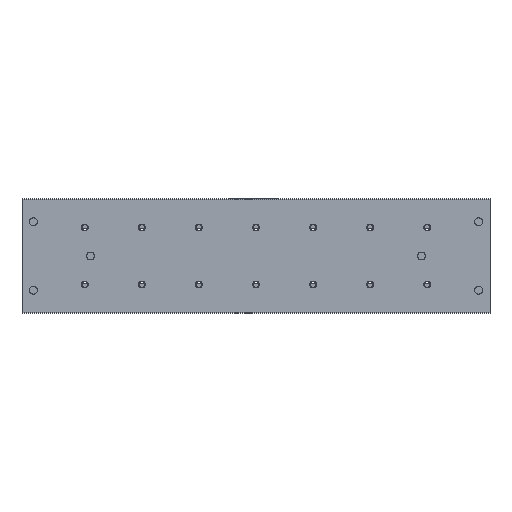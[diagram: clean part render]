
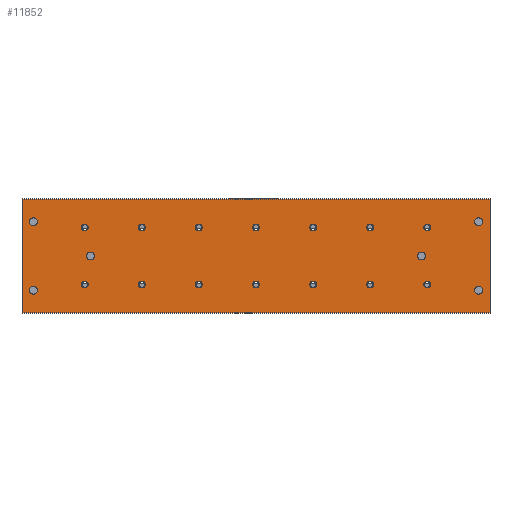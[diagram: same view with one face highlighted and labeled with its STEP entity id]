
A CAD part, front view. The second image highlights one B-rep face of the part: STEP entity #11852.
In plain terms, the highlighted planar face has unit normal (0, -1, 0).
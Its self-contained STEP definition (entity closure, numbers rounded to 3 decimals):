
#418=CIRCLE('',#12570,3.);
#419=CIRCLE('',#12571,3.);
#420=CIRCLE('',#12572,3.);
#421=CIRCLE('',#12573,3.);
#422=CIRCLE('',#12574,3.);
#423=CIRCLE('',#12575,3.);
#424=CIRCLE('',#12576,3.);
#425=CIRCLE('',#12577,3.);
#426=CIRCLE('',#12578,3.);
#427=CIRCLE('',#12579,3.);
#428=CIRCLE('',#12580,3.);
#429=CIRCLE('',#12581,3.);
#430=CIRCLE('',#12582,3.);
#431=CIRCLE('',#12583,3.);
#432=CIRCLE('',#12584,3.5);
#433=CIRCLE('',#12585,3.5);
#434=CIRCLE('',#12586,3.5);
#435=CIRCLE('',#12587,3.5);
#436=CIRCLE('',#12588,3.5);
#437=CIRCLE('',#12589,3.5);
#1256=ORIENTED_EDGE('',*,*,#4829,.F.);
#1257=ORIENTED_EDGE('',*,*,#4830,.F.);
#1258=ORIENTED_EDGE('',*,*,#4831,.F.);
#1259=ORIENTED_EDGE('',*,*,#4832,.F.);
#1260=ORIENTED_EDGE('',*,*,#4833,.F.);
#1261=ORIENTED_EDGE('',*,*,#4834,.F.);
#1262=ORIENTED_EDGE('',*,*,#4835,.F.);
#1263=ORIENTED_EDGE('',*,*,#4836,.F.);
#1264=ORIENTED_EDGE('',*,*,#4837,.F.);
#1265=ORIENTED_EDGE('',*,*,#4838,.F.);
#1266=ORIENTED_EDGE('',*,*,#4839,.F.);
#1267=ORIENTED_EDGE('',*,*,#4840,.F.);
#1268=ORIENTED_EDGE('',*,*,#4841,.F.);
#1269=ORIENTED_EDGE('',*,*,#4842,.F.);
#1270=ORIENTED_EDGE('',*,*,#4843,.F.);
#1271=ORIENTED_EDGE('',*,*,#4844,.F.);
#1272=ORIENTED_EDGE('',*,*,#4845,.T.);
#1273=ORIENTED_EDGE('',*,*,#4846,.F.);
#1274=ORIENTED_EDGE('',*,*,#4847,.F.);
#1275=ORIENTED_EDGE('',*,*,#4848,.F.);
#1276=ORIENTED_EDGE('',*,*,#4783,.T.);
#1277=ORIENTED_EDGE('',*,*,#4849,.F.);
#1278=ORIENTED_EDGE('',*,*,#4850,.F.);
#1279=ORIENTED_EDGE('',*,*,#4827,.T.);
#4783=EDGE_CURVE('',#6576,#6575,#7779,.T.);
#4827=EDGE_CURVE('',#6610,#6576,#7823,.T.);
#4829=EDGE_CURVE('',#6611,#6611,#418,.T.);
#4830=EDGE_CURVE('',#6612,#6612,#419,.T.);
#4831=EDGE_CURVE('',#6613,#6613,#420,.T.);
#4832=EDGE_CURVE('',#6614,#6614,#421,.T.);
#4833=EDGE_CURVE('',#6615,#6615,#422,.T.);
#4834=EDGE_CURVE('',#6616,#6616,#423,.T.);
#4835=EDGE_CURVE('',#6617,#6617,#424,.T.);
#4836=EDGE_CURVE('',#6618,#6618,#425,.T.);
#4837=EDGE_CURVE('',#6619,#6619,#426,.T.);
#4838=EDGE_CURVE('',#6620,#6620,#427,.T.);
#4839=EDGE_CURVE('',#6621,#6621,#428,.T.);
#4840=EDGE_CURVE('',#6622,#6622,#429,.T.);
#4841=EDGE_CURVE('',#6623,#6623,#430,.T.);
#4842=EDGE_CURVE('',#6624,#6624,#431,.T.);
#4843=EDGE_CURVE('',#6625,#6625,#432,.T.);
#4844=EDGE_CURVE('',#6626,#6626,#433,.T.);
#4845=EDGE_CURVE('',#6627,#6627,#434,.T.);
#4846=EDGE_CURVE('',#6628,#6628,#435,.T.);
#4847=EDGE_CURVE('',#6629,#6629,#436,.T.);
#4848=EDGE_CURVE('',#6630,#6630,#437,.T.);
#4849=EDGE_CURVE('',#6631,#6575,#7825,.T.);
#4850=EDGE_CURVE('',#6610,#6631,#7826,.T.);
#6575=VERTEX_POINT('',#17998);
#6576=VERTEX_POINT('',#18000);
#6610=VERTEX_POINT('',#18085);
#6611=VERTEX_POINT('',#18089);
#6612=VERTEX_POINT('',#18091);
#6613=VERTEX_POINT('',#18093);
#6614=VERTEX_POINT('',#18095);
#6615=VERTEX_POINT('',#18097);
#6616=VERTEX_POINT('',#18099);
#6617=VERTEX_POINT('',#18101);
#6618=VERTEX_POINT('',#18103);
#6619=VERTEX_POINT('',#18105);
#6620=VERTEX_POINT('',#18107);
#6621=VERTEX_POINT('',#18109);
#6622=VERTEX_POINT('',#18111);
#6623=VERTEX_POINT('',#18113);
#6624=VERTEX_POINT('',#18115);
#6625=VERTEX_POINT('',#18117);
#6626=VERTEX_POINT('',#18119);
#6627=VERTEX_POINT('',#18121);
#6628=VERTEX_POINT('',#18123);
#6629=VERTEX_POINT('',#18125);
#6630=VERTEX_POINT('',#18127);
#6631=VERTEX_POINT('',#18129);
#7779=LINE('',#17999,#8819);
#7823=LINE('',#18084,#8863);
#7825=LINE('',#18128,#8865);
#7826=LINE('',#18130,#8866);
#8819=VECTOR('',#14042,1000.);
#8863=VECTOR('',#14100,1000.);
#8865=VECTOR('',#14144,1000.);
#8866=VECTOR('',#14145,1000.);
#9841=EDGE_LOOP('',(#1256));
#9842=EDGE_LOOP('',(#1257));
#9843=EDGE_LOOP('',(#1258));
#9844=EDGE_LOOP('',(#1259));
#9845=EDGE_LOOP('',(#1260));
#9846=EDGE_LOOP('',(#1261));
#9847=EDGE_LOOP('',(#1262));
#9848=EDGE_LOOP('',(#1263));
#9849=EDGE_LOOP('',(#1264));
#9850=EDGE_LOOP('',(#1265));
#9851=EDGE_LOOP('',(#1266));
#9852=EDGE_LOOP('',(#1267));
#9853=EDGE_LOOP('',(#1268));
#9854=EDGE_LOOP('',(#1269));
#9855=EDGE_LOOP('',(#1270));
#9856=EDGE_LOOP('',(#1271));
#9857=EDGE_LOOP('',(#1272));
#9858=EDGE_LOOP('',(#1273));
#9859=EDGE_LOOP('',(#1274));
#9860=EDGE_LOOP('',(#1275));
#9861=EDGE_LOOP('',(#1276,#1277,#1278,#1279));
#10695=FACE_BOUND('',#9841,.T.);
#10696=FACE_BOUND('',#9842,.T.);
#10697=FACE_BOUND('',#9843,.T.);
#10698=FACE_BOUND('',#9844,.T.);
#10699=FACE_BOUND('',#9845,.T.);
#10700=FACE_BOUND('',#9846,.T.);
#10701=FACE_BOUND('',#9847,.T.);
#10702=FACE_BOUND('',#9848,.T.);
#10703=FACE_BOUND('',#9849,.T.);
#10704=FACE_BOUND('',#9850,.T.);
#10705=FACE_BOUND('',#9851,.T.);
#10706=FACE_BOUND('',#9852,.T.);
#10707=FACE_BOUND('',#9853,.T.);
#10708=FACE_BOUND('',#9854,.T.);
#10709=FACE_BOUND('',#9855,.T.);
#10710=FACE_BOUND('',#9856,.T.);
#10711=FACE_BOUND('',#9857,.T.);
#10712=FACE_BOUND('',#9858,.T.);
#10713=FACE_BOUND('',#9859,.T.);
#10714=FACE_BOUND('',#9860,.T.);
#10715=FACE_BOUND('',#9861,.T.);
#11549=PLANE('',#12569);
#11852=ADVANCED_FACE('',(#10695,#10696,#10697,#10698,#10699,#10700,#10701,
#10702,#10703,#10704,#10705,#10706,#10707,#10708,#10709,#10710,#10711,#10712,
#10713,#10714,#10715),#11549,.F.);
#12569=AXIS2_PLACEMENT_3D('',#18087,#14102,#14103);
#12570=AXIS2_PLACEMENT_3D('',#18088,#14104,#14105);
#12571=AXIS2_PLACEMENT_3D('',#18090,#14106,#14107);
#12572=AXIS2_PLACEMENT_3D('',#18092,#14108,#14109);
#12573=AXIS2_PLACEMENT_3D('',#18094,#14110,#14111);
#12574=AXIS2_PLACEMENT_3D('',#18096,#14112,#14113);
#12575=AXIS2_PLACEMENT_3D('',#18098,#14114,#14115);
#12576=AXIS2_PLACEMENT_3D('',#18100,#14116,#14117);
#12577=AXIS2_PLACEMENT_3D('',#18102,#14118,#14119);
#12578=AXIS2_PLACEMENT_3D('',#18104,#14120,#14121);
#12579=AXIS2_PLACEMENT_3D('',#18106,#14122,#14123);
#12580=AXIS2_PLACEMENT_3D('',#18108,#14124,#14125);
#12581=AXIS2_PLACEMENT_3D('',#18110,#14126,#14127);
#12582=AXIS2_PLACEMENT_3D('',#18112,#14128,#14129);
#12583=AXIS2_PLACEMENT_3D('',#18114,#14130,#14131);
#12584=AXIS2_PLACEMENT_3D('',#18116,#14132,#14133);
#12585=AXIS2_PLACEMENT_3D('',#18118,#14134,#14135);
#12586=AXIS2_PLACEMENT_3D('',#18120,#14136,#14137);
#12587=AXIS2_PLACEMENT_3D('',#18122,#14138,#14139);
#12588=AXIS2_PLACEMENT_3D('',#18124,#14140,#14141);
#12589=AXIS2_PLACEMENT_3D('',#18126,#14142,#14143);
#14042=DIRECTION('',(0.,0.,-1.));
#14100=DIRECTION('',(-1.,0.,0.));
#14102=DIRECTION('',(0.,1.,0.));
#14103=DIRECTION('',(0.,0.,1.));
#14104=DIRECTION('',(0.,-1.,0.));
#14105=DIRECTION('',(0.,0.,-1.));
#14106=DIRECTION('',(0.,-1.,0.));
#14107=DIRECTION('',(0.,0.,-1.));
#14108=DIRECTION('',(0.,-1.,0.));
#14109=DIRECTION('',(0.,0.,-1.));
#14110=DIRECTION('',(0.,-1.,0.));
#14111=DIRECTION('',(0.,0.,-1.));
#14112=DIRECTION('',(0.,-1.,0.));
#14113=DIRECTION('',(0.,0.,-1.));
#14114=DIRECTION('',(0.,-1.,0.));
#14115=DIRECTION('',(0.,0.,-1.));
#14116=DIRECTION('',(0.,-1.,0.));
#14117=DIRECTION('',(0.,0.,-1.));
#14118=DIRECTION('',(0.,-1.,0.));
#14119=DIRECTION('',(0.,0.,-1.));
#14120=DIRECTION('',(0.,-1.,0.));
#14121=DIRECTION('',(0.,0.,-1.));
#14122=DIRECTION('',(0.,-1.,0.));
#14123=DIRECTION('',(0.,0.,-1.));
#14124=DIRECTION('',(0.,-1.,0.));
#14125=DIRECTION('',(0.,0.,-1.));
#14126=DIRECTION('',(0.,-1.,0.));
#14127=DIRECTION('',(0.,0.,-1.));
#14128=DIRECTION('',(0.,-1.,0.));
#14129=DIRECTION('',(0.,0.,-1.));
#14130=DIRECTION('',(0.,-1.,0.));
#14131=DIRECTION('',(0.,0.,-1.));
#14132=DIRECTION('',(0.,-1.,0.));
#14133=DIRECTION('',(0.,0.,-1.));
#14134=DIRECTION('',(0.,-1.,0.));
#14135=DIRECTION('',(0.,0.,-1.));
#14136=DIRECTION('',(0.,1.,0.));
#14137=DIRECTION('',(0.,0.,1.));
#14138=DIRECTION('',(0.,-1.,0.));
#14139=DIRECTION('',(0.,0.,-1.));
#14140=DIRECTION('',(0.,-1.,0.));
#14141=DIRECTION('',(0.,0.,-1.));
#14142=DIRECTION('',(0.,-1.,0.));
#14143=DIRECTION('',(0.,0.,-1.));
#14144=DIRECTION('',(-1.,0.,0.));
#14145=DIRECTION('',(0.,0.,-1.));
#17998=CARTESIAN_POINT('',(0.,0.,-49.7));
#17999=CARTESIAN_POINT('',(0.,0.,49.7));
#18000=CARTESIAN_POINT('',(0.,0.,49.7));
#18084=CARTESIAN_POINT('',(410.,0.,49.7));
#18085=CARTESIAN_POINT('',(410.,0.,49.7));
#18087=CARTESIAN_POINT('',(410.,0.,49.7));
#18088=CARTESIAN_POINT('',(355.,0.,-25.));
#18089=CARTESIAN_POINT('',(355.,0.,-28.));
#18090=CARTESIAN_POINT('',(355.,0.,25.));
#18091=CARTESIAN_POINT('',(355.,0.,22.));
#18092=CARTESIAN_POINT('',(55.,0.,-25.));
#18093=CARTESIAN_POINT('',(55.,0.,-28.));
#18094=CARTESIAN_POINT('',(55.,0.,25.));
#18095=CARTESIAN_POINT('',(55.,0.,22.));
#18096=CARTESIAN_POINT('',(105.,0.,-25.));
#18097=CARTESIAN_POINT('',(105.,0.,-28.));
#18098=CARTESIAN_POINT('',(105.,0.,25.));
#18099=CARTESIAN_POINT('',(105.,0.,22.));
#18100=CARTESIAN_POINT('',(305.,0.,-25.));
#18101=CARTESIAN_POINT('',(305.,0.,-28.));
#18102=CARTESIAN_POINT('',(305.,0.,25.));
#18103=CARTESIAN_POINT('',(305.,0.,22.));
#18104=CARTESIAN_POINT('',(255.,0.,-25.));
#18105=CARTESIAN_POINT('',(255.,0.,-28.));
#18106=CARTESIAN_POINT('',(255.,0.,25.));
#18107=CARTESIAN_POINT('',(255.,0.,22.));
#18108=CARTESIAN_POINT('',(155.,0.,-25.));
#18109=CARTESIAN_POINT('',(155.,0.,-28.));
#18110=CARTESIAN_POINT('',(155.,0.,25.));
#18111=CARTESIAN_POINT('',(155.,0.,22.));
#18112=CARTESIAN_POINT('',(205.,0.,-25.));
#18113=CARTESIAN_POINT('',(205.,0.,-28.));
#18114=CARTESIAN_POINT('',(205.,0.,25.));
#18115=CARTESIAN_POINT('',(205.,0.,22.));
#18116=CARTESIAN_POINT('',(350.,0.,0.));
#18117=CARTESIAN_POINT('',(350.,0.,-3.5));
#18118=CARTESIAN_POINT('',(60.,0.,0.));
#18119=CARTESIAN_POINT('',(60.,0.,-3.5));
#18120=CARTESIAN_POINT('',(400.,0.,30.));
#18121=CARTESIAN_POINT('',(400.,0.,33.5));
#18122=CARTESIAN_POINT('',(400.,0.,-30.));
#18123=CARTESIAN_POINT('',(400.,0.,-33.5));
#18124=CARTESIAN_POINT('',(10.,0.,-30.));
#18125=CARTESIAN_POINT('',(10.,0.,-33.5));
#18126=CARTESIAN_POINT('',(10.,0.,30.));
#18127=CARTESIAN_POINT('',(10.,0.,26.5));
#18128=CARTESIAN_POINT('',(410.,0.,-49.7));
#18129=CARTESIAN_POINT('',(410.,0.,-49.7));
#18130=CARTESIAN_POINT('',(410.,0.,49.7));
